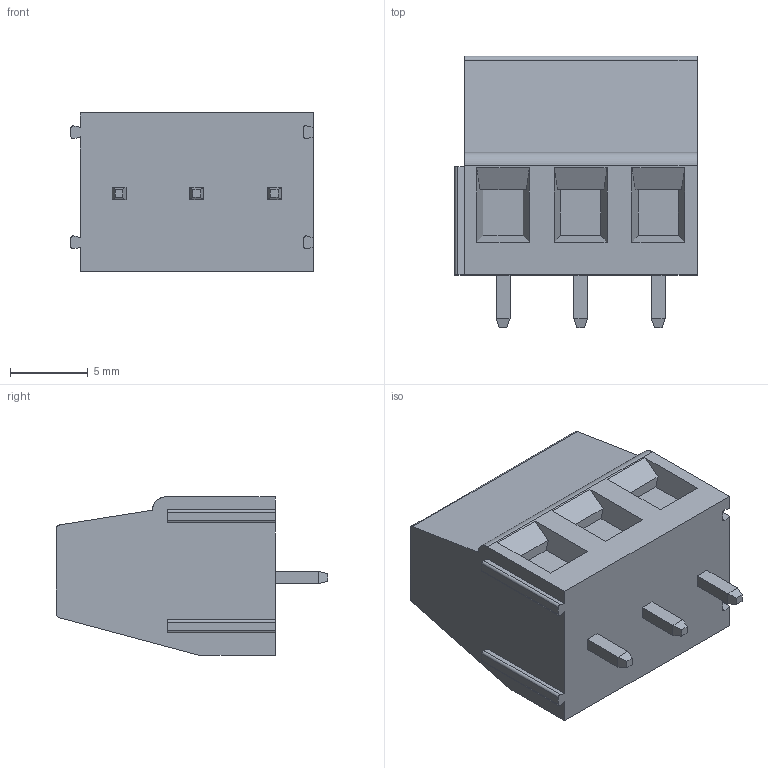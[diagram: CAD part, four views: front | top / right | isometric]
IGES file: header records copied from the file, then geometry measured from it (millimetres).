
Start section: SolidWorks IGES file using analytic representation for surfaces
Global section: file name: D:\OneDrive\00_MOITECH\01_Projects\2020\Metaltex\Modeling\Componentes\BR2\\_Dn\BR203.IGS; native system: SolidWorks 2019; preprocessor: SolidWorks 2019; author: Alan; date: 200220.005340; units: millimetre
Bounding box: 15.6 x 17.5 x 10.2 mm (x, y, z)
Surface area: 1313.1 mm2 (no closed solid volume)
Topology: 0 solids, 0 shells, 246 faces, 1595 edges, 1595 vertices
Faces by surface type: bspline 187, revolution 59
